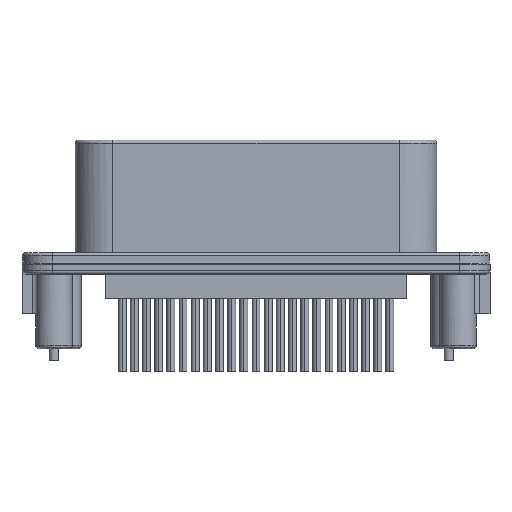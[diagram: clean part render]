
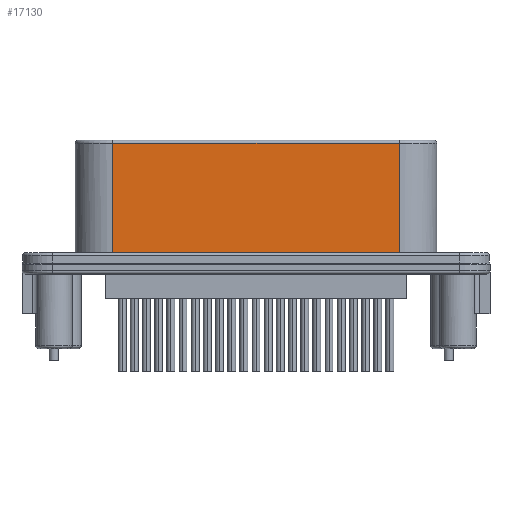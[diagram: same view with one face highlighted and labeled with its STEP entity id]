
A CAD part, front view. The second image highlights one B-rep face of the part: STEP entity #17130.
In plain terms, the highlighted planar face has unit normal (0, -1, 0).
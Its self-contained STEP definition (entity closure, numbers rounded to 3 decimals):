
#4621=DIRECTION('',(1.,0.,0.));
#4622=VECTOR('',#4621,47.);
#4623=CARTESIAN_POINT('',(-23.5,-11.8,-0.5));
#4624=LINE('',#4623,#4622);
#4625=DIRECTION('',(0.,0.,-1.));
#4626=VECTOR('',#4625,19.);
#4627=CARTESIAN_POINT('',(23.5,-11.8,-0.5));
#4628=LINE('',#4627,#4626);
#4629=DIRECTION('',(1.,0.,0.));
#4630=VECTOR('',#4629,47.);
#4631=CARTESIAN_POINT('',(-23.5,-11.8,-19.5));
#4632=LINE('',#4631,#4630);
#4633=DIRECTION('',(0.,0.,-1.));
#4634=VECTOR('',#4633,19.);
#4635=CARTESIAN_POINT('',(-23.5,-11.8,-0.5));
#4636=LINE('',#4635,#4634);
#10232=CARTESIAN_POINT('',(-23.5,-11.8,-0.5));
#10233=VERTEX_POINT('',#10232);
#10236=CARTESIAN_POINT('',(23.5,-11.8,-0.5));
#10237=VERTEX_POINT('',#10236);
#10438=CARTESIAN_POINT('',(-23.5,-11.8,-19.5));
#10439=CARTESIAN_POINT('',(23.5,-11.8,-19.5));
#10440=VERTEX_POINT('',#10438);
#10441=VERTEX_POINT('',#10439);
#17117=CARTESIAN_POINT('',(-29.7,-11.8,-20.));
#17118=DIRECTION('',(0.,-1.,0.));
#17119=DIRECTION('',(1.,0.,0.));
#17120=AXIS2_PLACEMENT_3D('',#17117,#17118,#17119);
#17121=PLANE('',#17120);
#17122=ORIENTED_EDGE('',*,*,#16813,.T.);
#17124=ORIENTED_EDGE('',*,*,#17123,.T.);
#17126=ORIENTED_EDGE('',*,*,#17125,.F.);
#17127=ORIENTED_EDGE('',*,*,#17105,.F.);
#17128=EDGE_LOOP('',(#17122,#17124,#17126,#17127));
#17129=FACE_OUTER_BOUND('',#17128,.F.);
#16813=EDGE_CURVE('',#10233,#10237,#4624,.T.);
#17105=EDGE_CURVE('',#10233,#10440,#4636,.T.);
#17123=EDGE_CURVE('',#10237,#10441,#4628,.T.);
#17125=EDGE_CURVE('',#10440,#10441,#4632,.T.);
#17130=ADVANCED_FACE('',(#17129),#17121,.T.);
